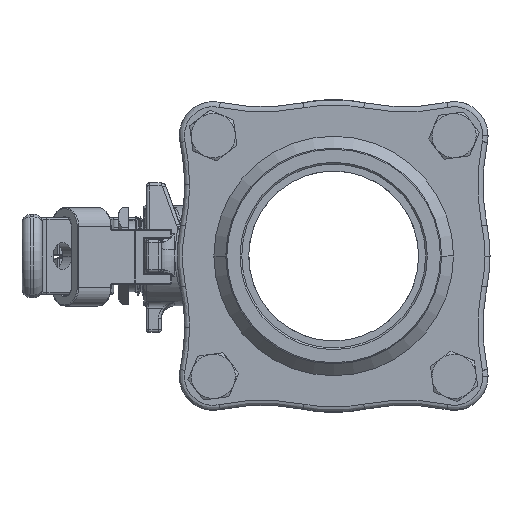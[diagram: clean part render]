
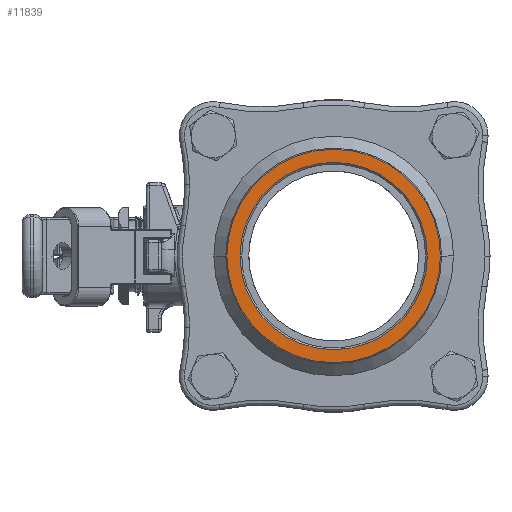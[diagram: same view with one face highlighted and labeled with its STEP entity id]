
A CAD part, left-side view. The second image highlights one B-rep face of the part: STEP entity #11839.
In plain terms, the highlighted planar face has unit normal (-1, 0, 0) as drawn and (0, 0, 1) by its records, which use the part's own axes.
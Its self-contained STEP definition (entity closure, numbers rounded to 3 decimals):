
#927 = ORIENTED_EDGE ( 'NONE', *, *, #14058, .T. ) ;
#928 = ORIENTED_EDGE ( 'NONE', *, *, #14748, .T. ) ;
#929 = ORIENTED_EDGE ( 'NONE', *, *, #13799, .T. ) ;
#930 = ORIENTED_EDGE ( 'NONE', *, *, #14710, .T. ) ;
#4990 = AXIS2_PLACEMENT_3D ( 'NONE', #63621, #63623, #63625 ) ;
#5215 = AXIS2_PLACEMENT_3D ( 'NONE', #54328, #54330, #54332 ) ;
#10717 = CARTESIAN_POINT ( 'NONE',  ( 0., 0., 41.1 ) ) ;
#10720 = PLANE ( 'NONE',  #29292 ) ;
#10722 = DIRECTION ( 'NONE',  ( 0., 0., -1. ) ) ;
#10723 = DIRECTION ( 'NONE',  ( -1., 0., 0. ) ) ;
#11839 = ADVANCED_FACE ( 'NONE', ( #38023, #38049 ), #10720, .F. ) ;
#13799 = EDGE_CURVE ( 'NONE', #29729, #29498, #70857, .T. ) ;
#14058 = EDGE_CURVE ( 'NONE', #29963, #29898, #71388, .T. ) ;
#14710 = EDGE_CURVE ( 'NONE', #29498, #29729, #72406, .T. ) ;
#14748 = EDGE_CURVE ( 'NONE', #29898, #29963, #72440, .T. ) ;
#29292 = AXIS2_PLACEMENT_3D ( 'NONE', #10717, #10722, #10723 ) ;
#29498 = VERTEX_POINT ( 'NONE', #77162 ) ;
#29729 = VERTEX_POINT ( 'NONE', #77539 ) ;
#29898 = VERTEX_POINT ( 'NONE', #77705 ) ;
#29963 = VERTEX_POINT ( 'NONE', #77769 ) ;
#38023 = FACE_BOUND ( 'NONE', #45148, .T. ) ;
#38049 = FACE_OUTER_BOUND ( 'NONE', #45156, .T. ) ;
#45148 = EDGE_LOOP ( 'NONE', ( #927, #928 ) ) ;
#45156 = EDGE_LOOP ( 'NONE', ( #929, #930 ) ) ;
#54328 = CARTESIAN_POINT ( 'NONE',  ( 0., 0., 41.1 ) ) ;
#54330 = DIRECTION ( 'NONE',  ( 0., 0., -1. ) ) ;
#54332 = DIRECTION ( 'NONE',  ( -1., 0., 0. ) ) ;
#63621 = CARTESIAN_POINT ( 'NONE',  ( 0., 0., 41.1 ) ) ;
#63623 = DIRECTION ( 'NONE',  ( 0., 0., 1. ) ) ;
#63625 = DIRECTION ( 'NONE',  ( -1., 0., 0. ) ) ;
#70857 = CIRCLE ( 'NONE', #4990, 31.42 ) ;
#71388 = CIRCLE ( 'NONE', #5215, 27.55 ) ;
#71876 = AXIS2_PLACEMENT_3D ( 'NONE', #76298, #76299, #76300 ) ;
#71910 = AXIS2_PLACEMENT_3D ( 'NONE', #76416, #76417, #76418 ) ;
#72406 = CIRCLE ( 'NONE', #71876, 31.42 ) ;
#72440 = CIRCLE ( 'NONE', #71910, 27.55 ) ;
#76298 = CARTESIAN_POINT ( 'NONE',  ( 0., 0., 41.1 ) ) ;
#76299 = DIRECTION ( 'NONE',  ( 0., 0., 1. ) ) ;
#76300 = DIRECTION ( 'NONE',  ( -1., 0., 0. ) ) ;
#76416 = CARTESIAN_POINT ( 'NONE',  ( 0., 0., 41.1 ) ) ;
#76417 = DIRECTION ( 'NONE',  ( 0., 0., -1. ) ) ;
#76418 = DIRECTION ( 'NONE',  ( -1., 0., 0. ) ) ;
#77162 = CARTESIAN_POINT ( 'NONE',  ( -31.42, 0., 41.1 ) ) ;
#77539 = CARTESIAN_POINT ( 'NONE',  ( 31.42, 0., 41.1 ) ) ;
#77705 = CARTESIAN_POINT ( 'NONE',  ( -27.55, 0., 41.1 ) ) ;
#77769 = CARTESIAN_POINT ( 'NONE',  ( 27.55, 0., 41.1 ) ) ;
